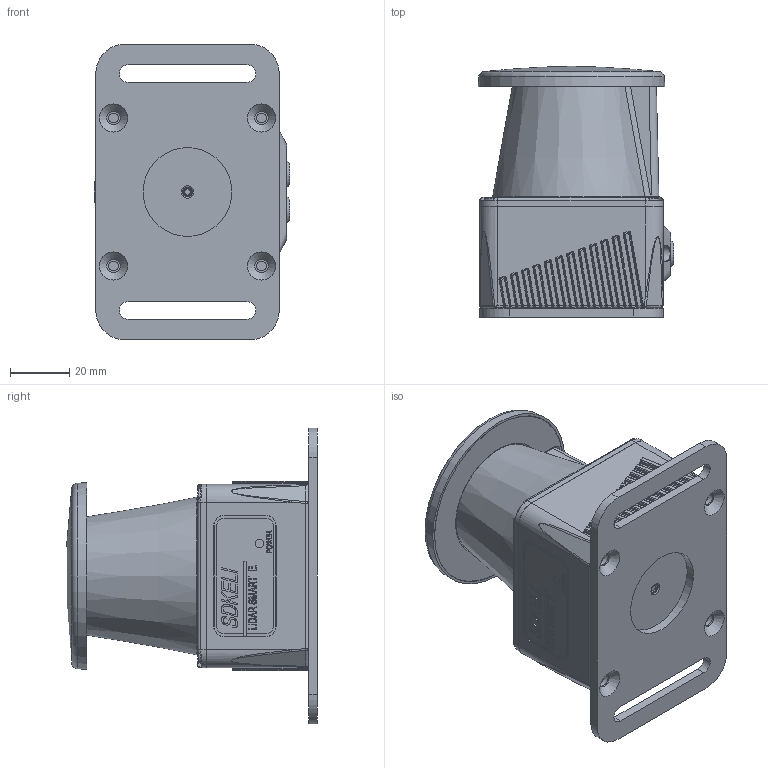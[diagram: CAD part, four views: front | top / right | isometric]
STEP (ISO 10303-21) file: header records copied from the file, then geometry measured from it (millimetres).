
FILE_DESCRIPTION(/* description */ (''),/* implementation_level */ '2;1');
FILE_NAME(/* name */ 'LSE-SZ-asm.stp',/* time_stamp */ '2025-08-06T14:47:22+08:00',/* author */ (''),/* organization */ (''),/* preprocessor_version */ 'ST-DEVELOPER v16',/* originating_system */ 'SIEMENS PLM Software NX 10.0',/* authorisation */ '');
FILE_SCHEMA (('AP203_CONFIGURATION_CONTROLLED_3D_DESIGN_OF_MECHANICAL_PARTS_AND_ASSEMBLIES_MIM_LF { 1 0 10303 403 2 1 2}'));
Products named in the file (1): JSB-34C87966jxom
Bounding box: 66.16 x 84.78 x 100 mm (x, y, z)
Volume: 80633.3 mm3; surface area: 74637 mm2
Topology: 3 solids, 9 shells, 1975 faces, 4921 edges, 3015 vertices
Faces by surface type: plane 786, cylinder 517, bspline 286, cone 145, extrusion 95, sphere 82, torus 64
Full cylindrical faces by diameter (mm): 2.3 x2, 3 x5, 3.3 x8, 4.5 x8, 5 x2, 5.3 x8, 5.9 x4, 6 x4, 30 x1
Entity records: 72919 total; most frequent: CARTESIAN_POINT 25258, ORIENTED_EDGE 9384, DIRECTION 7610, EDGE_CURVE 4692, VERTEX_POINT 2954, AXIS2_PLACEMENT_3D 2778, EDGE_LOOP 2226, VECTOR 2054
